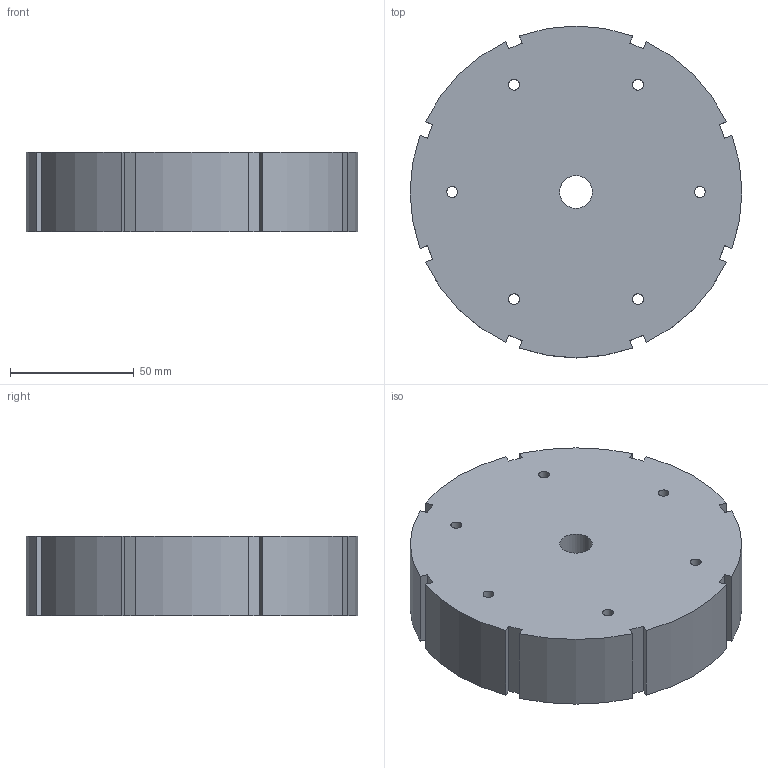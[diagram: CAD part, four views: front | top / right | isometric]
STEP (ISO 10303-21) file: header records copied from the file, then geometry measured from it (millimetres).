
FILE_DESCRIPTION(('Open CASCADE Model'),'2;1');
FILE_NAME('Open CASCADE Shape Model','2026-10-06T19:56:10',('Author'),( 'Open CASCADE'),'Open CASCADE STEP processor 7.9','Open CASCADE 7.9' ,'Unknown');
FILE_SCHEMA(('AUTOMOTIVE_DESIGN { 1 0 10303 214 1 1 1 1 }'));
Length unit declared in the file: millimetre
Products named in the file (1): Open CASCADE STEP translator 7.9 27
Bounding box: 134 x 134 x 32 mm (x, y, z)
Volume: 439104.2 mm3; surface area: 46499.7 mm2
Topology: 1 solids, 1 shells, 41 faces, 117 edges, 78 vertices
Faces by surface type: plane 26, cylinder 15
Full cylindrical faces by diameter (mm): 4.4 x6, 13.2 x1
Entity records: 2895 total; most frequent: CARTESIAN_POINT 557, DIRECTION 424, LINE 259, VECTOR 259, ORIENTED_EDGE 234, PCURVE 234, DEFINITIONAL_REPRESENTATION 234, EDGE_CURVE 117
